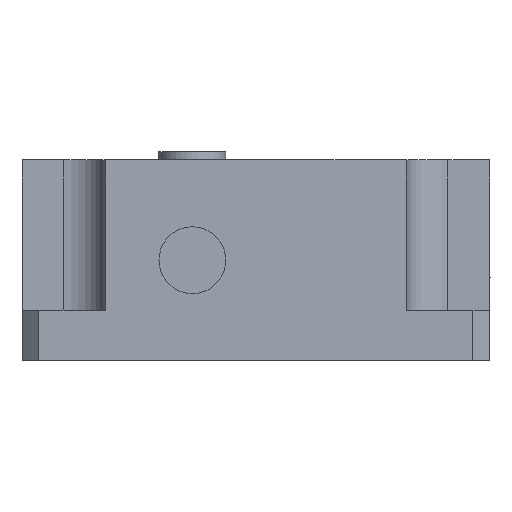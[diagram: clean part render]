
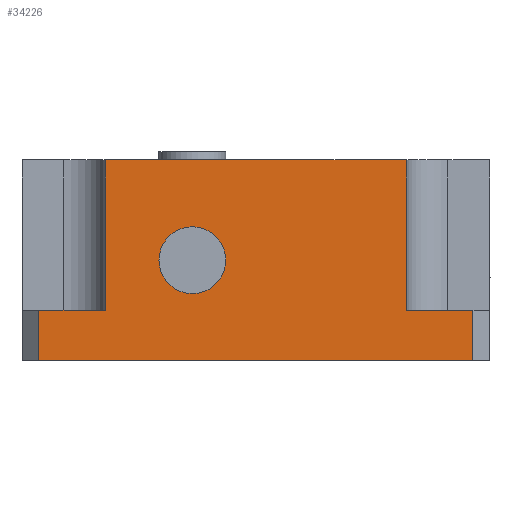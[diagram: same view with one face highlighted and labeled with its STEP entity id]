
A CAD part, front view. The second image highlights one B-rep face of the part: STEP entity #34226.
In plain terms, the highlighted planar face has unit normal (0, -1, 0).
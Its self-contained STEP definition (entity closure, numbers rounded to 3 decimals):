
#543 = LINE ( 'NONE', #13851, #17501 ) ;
#882 = DIRECTION ( 'NONE',  ( 0., 0., 1. ) ) ;
#924 = VECTOR ( 'NONE', #20088, 1000. ) ;
#1196 = LINE ( 'NONE', #7393, #4186 ) ;
#2242 = ORIENTED_EDGE ( 'NONE', *, *, #9446, .F. ) ;
#2389 = LINE ( 'NONE', #10457, #924 ) ;
#2465 = EDGE_CURVE ( 'NONE', #13972, #38776, #35860, .T. ) ;
#2682 = DIRECTION ( 'NONE',  ( 1., 0., 0. ) ) ;
#2828 = CARTESIAN_POINT ( 'NONE',  ( -14., -14., 3. ) ) ;
#4186 = VECTOR ( 'NONE', #38837, 1000. ) ;
#6008 = CARTESIAN_POINT ( 'NONE',  ( -3.8, -14., 8. ) ) ;
#6086 = EDGE_CURVE ( 'NONE', #18483, #12972, #1196, .T. ) ;
#6208 = CARTESIAN_POINT ( 'NONE',  ( -3.8, -14., 4. ) ) ;
#6304 = ORIENTED_EDGE ( 'NONE', *, *, #25136, .T. ) ;
#6490 = CARTESIAN_POINT ( 'NONE',  ( -13., -14., 0. ) ) ;
#6672 = EDGE_CURVE ( 'NONE', #39263, #23259, #37218, .T. ) ;
#7393 = CARTESIAN_POINT ( 'NONE',  ( -14., -14., 12. ) ) ;
#8580 = DIRECTION ( 'NONE',  ( 0., -1., 0. ) ) ;
#9446 = EDGE_CURVE ( 'NONE', #23248, #13972, #543, .T. ) ;
#9881 = LINE ( 'NONE', #19453, #38378 ) ;
#9993 = AXIS2_PLACEMENT_3D ( 'NONE', #15307, #22150, #18527 ) ;
#10457 = CARTESIAN_POINT ( 'NONE',  ( 13., -14., 3. ) ) ;
#10646 = DIRECTION ( 'NONE',  ( 0., 0., 1. ) ) ;
#11951 = ORIENTED_EDGE ( 'NONE', *, *, #23957, .F. ) ;
#12155 = EDGE_CURVE ( 'NONE', #12972, #39263, #9881, .T. ) ;
#12633 = CIRCLE ( 'NONE', #9993, 2. ) ;
#12674 = FACE_BOUND ( 'NONE', #19554, .T. ) ;
#12972 = VERTEX_POINT ( 'NONE', #19351 ) ;
#13252 = EDGE_CURVE ( 'NONE', #39582, #36712, #20807, .T. ) ;
#13851 = CARTESIAN_POINT ( 'NONE',  ( -13., -14., 3. ) ) ;
#13972 = VERTEX_POINT ( 'NONE', #15821 ) ;
#14164 = VECTOR ( 'NONE', #28763, 1000. ) ;
#15307 = CARTESIAN_POINT ( 'NONE',  ( -3.8, -14., 6. ) ) ;
#15796 = EDGE_LOOP ( 'NONE', ( #35995, #16009, #17499, #32166, #28521, #38733, #2242, #6304 ) ) ;
#15821 = CARTESIAN_POINT ( 'NONE',  ( -13., -14., 3. ) ) ;
#16009 = ORIENTED_EDGE ( 'NONE', *, *, #6672, .F. ) ;
#17499 = ORIENTED_EDGE ( 'NONE', *, *, #12155, .F. ) ;
#17501 = VECTOR ( 'NONE', #10646, 1000. ) ;
#17921 = EDGE_CURVE ( 'NONE', #38776, #18483, #40680, .T. ) ;
#18111 = AXIS2_PLACEMENT_3D ( 'NONE', #40702, #8580, #24464 ) ;
#18483 = VERTEX_POINT ( 'NONE', #24271 ) ;
#18527 = DIRECTION ( 'NONE',  ( 0., 0., 1. ) ) ;
#19175 = FACE_OUTER_BOUND ( 'NONE', #15796, .T. ) ;
#19351 = CARTESIAN_POINT ( 'NONE',  ( 9., -14., 12. ) ) ;
#19453 = CARTESIAN_POINT ( 'NONE',  ( 9., -14., 3. ) ) ;
#19554 = EDGE_LOOP ( 'NONE', ( #36671, #11951 ) ) ;
#19976 = DIRECTION ( 'NONE',  ( 0., 1., 0. ) ) ;
#20088 = DIRECTION ( 'NONE',  ( 0., 0., -1. ) ) ;
#20807 = CIRCLE ( 'NONE', #18111, 2. ) ;
#22107 = DIRECTION ( 'NONE',  ( 0., 0., -1. ) ) ;
#22150 = DIRECTION ( 'NONE',  ( 0., -1., 0. ) ) ;
#22670 = VECTOR ( 'NONE', #33589, 1000. ) ;
#23199 = CARTESIAN_POINT ( 'NONE',  ( 9., -14., 3. ) ) ;
#23248 = VERTEX_POINT ( 'NONE', #6490 ) ;
#23259 = VERTEX_POINT ( 'NONE', #38079 ) ;
#23957 = EDGE_CURVE ( 'NONE', #36712, #39582, #12633, .T. ) ;
#24271 = CARTESIAN_POINT ( 'NONE',  ( -9., -14., 12. ) ) ;
#24464 = DIRECTION ( 'NONE',  ( 0., 0., 1. ) ) ;
#25136 = EDGE_CURVE ( 'NONE', #23248, #33340, #41065, .T. ) ;
#26564 = AXIS2_PLACEMENT_3D ( 'NONE', #39133, #19976, #882 ) ;
#28187 = CARTESIAN_POINT ( 'NONE',  ( 13., -14., 0. ) ) ;
#28521 = ORIENTED_EDGE ( 'NONE', *, *, #17921, .F. ) ;
#28763 = DIRECTION ( 'NONE',  ( 0., 0., 1. ) ) ;
#29142 = CARTESIAN_POINT ( 'NONE',  ( -9., -14., 3. ) ) ;
#30077 = VECTOR ( 'NONE', #37497, 1000. ) ;
#30152 = EDGE_CURVE ( 'NONE', #23259, #33340, #2389, .T. ) ;
#32166 = ORIENTED_EDGE ( 'NONE', *, *, #6086, .F. ) ;
#33340 = VERTEX_POINT ( 'NONE', #28187 ) ;
#33589 = DIRECTION ( 'NONE',  ( 1., 0., 0. ) ) ;
#34226 = ADVANCED_FACE ( 'NONE', ( #19175, #12674 ), #35954, .F. ) ;
#34841 = VECTOR ( 'NONE', #2682, 1000. ) ;
#35860 = LINE ( 'NONE', #2828, #34841 ) ;
#35954 = PLANE ( 'NONE',  #26564 ) ;
#35995 = ORIENTED_EDGE ( 'NONE', *, *, #30152, .F. ) ;
#36536 = CARTESIAN_POINT ( 'NONE',  ( 0., -14., 0. ) ) ;
#36671 = ORIENTED_EDGE ( 'NONE', *, *, #13252, .F. ) ;
#36712 = VERTEX_POINT ( 'NONE', #6208 ) ;
#37218 = LINE ( 'NONE', #39736, #22670 ) ;
#37497 = DIRECTION ( 'NONE',  ( 1., 0., 0. ) ) ;
#37595 = CARTESIAN_POINT ( 'NONE',  ( -9., -14., 3. ) ) ;
#38079 = CARTESIAN_POINT ( 'NONE',  ( 13., -14., 3. ) ) ;
#38378 = VECTOR ( 'NONE', #22107, 1000. ) ;
#38733 = ORIENTED_EDGE ( 'NONE', *, *, #2465, .F. ) ;
#38776 = VERTEX_POINT ( 'NONE', #29142 ) ;
#38837 = DIRECTION ( 'NONE',  ( 1., 0., 0. ) ) ;
#39133 = CARTESIAN_POINT ( 'NONE',  ( -14., -14., 3. ) ) ;
#39263 = VERTEX_POINT ( 'NONE', #23199 ) ;
#39582 = VERTEX_POINT ( 'NONE', #6008 ) ;
#39736 = CARTESIAN_POINT ( 'NONE',  ( -14., -14., 3. ) ) ;
#40680 = LINE ( 'NONE', #37595, #14164 ) ;
#40702 = CARTESIAN_POINT ( 'NONE',  ( -3.8, -14., 6. ) ) ;
#41065 = LINE ( 'NONE', #36536, #30077 ) ;
